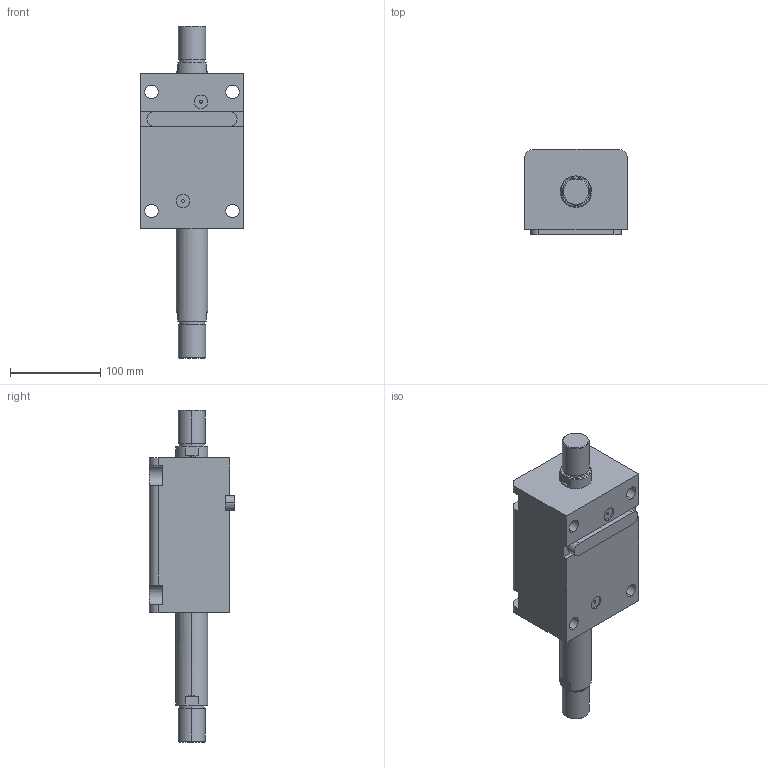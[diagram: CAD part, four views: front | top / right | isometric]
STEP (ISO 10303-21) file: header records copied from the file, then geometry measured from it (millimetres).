
FILE_DESCRIPTION (( 'STEP AP203' ), '1' );
FILE_NAME ('HTB-LWM63-90W.STEP', '2020-12-25T03:55:36', ( '微软用户' ), ( '微软中国' ), 'SwSTEP 2.0', 'SolidWorks 2012', '' );
FILE_SCHEMA (( 'CONFIG_CONTROL_DESIGN' ));
Length unit declared in the file: millimetre
Products named in the file (4): HTB-LWM63-90W活塞杆; HTB-LWM63-瑩; HTB-LWM63-90W; HTB-LWM63-90掛极
Assembly tree (3 placements, depth 2):
  HTB-LWM63-90W
    HTB-LWM63-90掛极
    HTB-LWM63-90W活塞杆
    HTB-LWM63-瑩
Bounding box: 114 x 94.5 x 368 mm (x, y, z)
Volume: 1639289 mm3; surface area: 187980.3 mm2
Topology: 3 solids, 3 shells, 113 faces, 273 edges, 178 vertices
Faces by surface type: cylinder 49, plane 48, torus 8, cone 8
Entity records: 3783 total; most frequent: CARTESIAN_POINT 626, DIRECTION 617, ORIENTED_EDGE 546, EDGE_CURVE 273, AXIS2_PLACEMENT_3D 241, VERTEX_POINT 178, EDGE_LOOP 135, VECTOR 135
